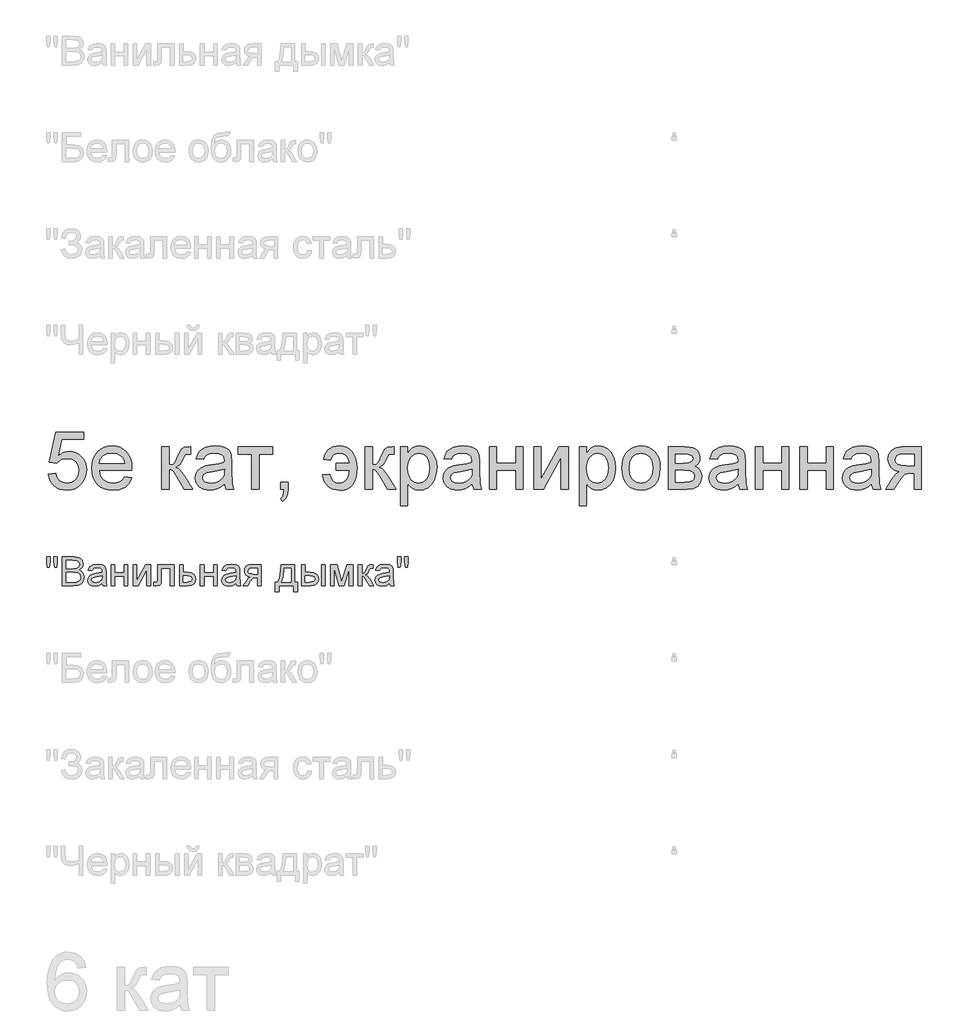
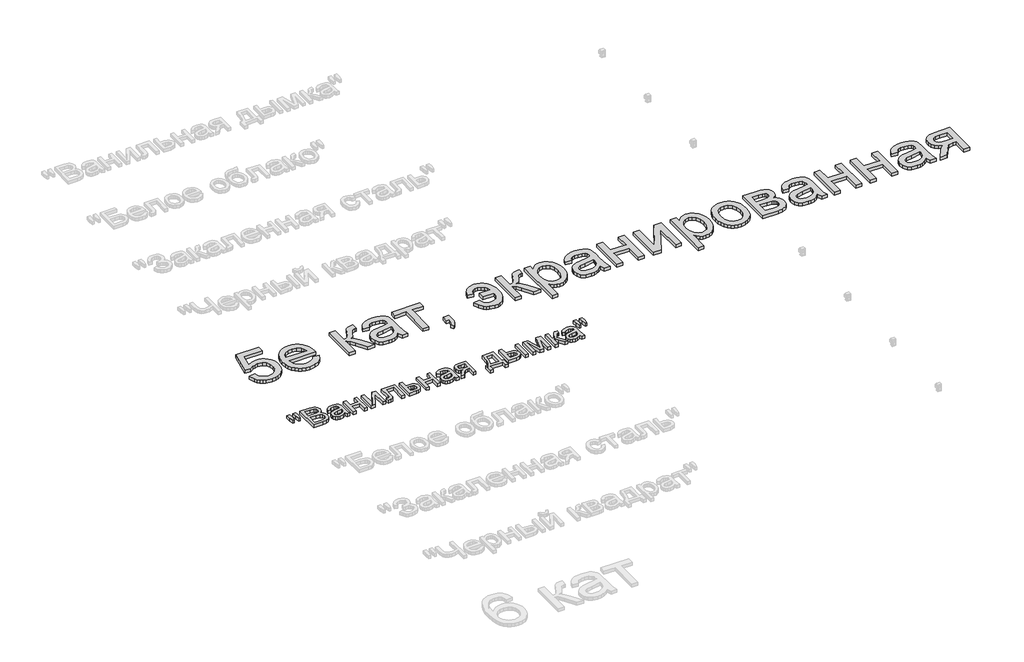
# One storey, part 75 of 168: 2 proxies.
"""IFC4 building model written with IfcOpenShell, lengths in millimetres."""

from ifc_helpers import new_model, si_unit, origin, origin_with_axes, place, context, project, spatial, polyline, outline, extrude, element, save

model = new_model("IFC4")

# Units and contexts
model_context = context("Model", 3, world=origin())
ifc_project = project(units=[si_unit("LENGTHUNIT", "METRE", prefix="MILLI")], contexts=[model_context])

# Site, building, storey
site = spatial("IfcSite", under=ifc_project)
building = spatial("IfcBuilding", under=site)
storey = spatial("IfcBuildingStorey", under=building, Name="Этаж 01", Elevation=0.0)

# Proxies
placement = place(None, origin())
element("IfcBuildingElementProxy", 1, Name="300 мм Arial 2", ObjectType="300 мм Arial 2", at=placement, inside=storey, context=model_context, shape_type="SweptSolid", body=[
    extrude(outline(polyline([(60184.967833, -34586.8111756), (60222.6389493, -34582.102286), (60229.5551309, -34604.7178317), (60241.6216603, -34620.9138365), (60258.7833554, -34630.6535124), (60280.9850338, -34633.900071), (60307.9875722, -34629.3843195), (60328.221082, -34615.837065), (60340.8578285, -34594.821806), (60345.0700773, -34567.902041), (60341.1245429, -34542.5549716), (60329.2879398, -34523.1675904), (60309.4682973, -34510.8619377), (60281.573645, -34506.7600534), (60263.2991069, -34508.3971283), (60248.5010536, -34513.3083529), (60227.3478389, -34530.3045011), (60189.6767226, -34525.5956116), (60222.6389493, -34370.2022568), (60368.614525, -34370.2022568), (60368.614525, -34407.8733731), (60253.0995785, -34407.8733731), (60236.9863472, -34490.8675512), (60263.8969151, -34474.5335907), (60292.09507, -34469.0889371), (60310.4408853, -34470.7765958), (60327.2921799, -34475.8395717), (60342.648954, -34484.277865), (60356.5112074, -34496.0914756), (60367.9868264, -34510.558435), (60376.1836971, -34526.956775), (60381.1018195, -34545.2864954), (60382.7411936, -34565.5475963), (60376.8366876, -34603.2187126), (60369.4560551, -34620.0125256), (60359.1231696, -34635.4451753), (60343.4697907, -34651.2503056), (60325.2044496, -34662.5396843), (60304.3271464, -34669.3133115), (60280.837881, -34671.5711873), (60243.8381493, -34665.7678488), (60228.1594785, -34658.5136757), (60214.3616045, -34648.3578334), (60202.8813869, -34635.8061596), (60194.1556859, -34621.364492), (60184.967833, -34586.8111756)])), origin_with_axes(), (0.0, 0.0, 1.0), 20.0),
    extrude(outline(polyline([(60580.0730959, -34600.9378442), (60617.0084482, -34605.6467337), (60603.700317, -34633.4770067), (60582.4643288, -34654.2807335), (60553.7787303, -34667.2485738), (60518.1217679, -34671.5711873), (60494.7474656, -34669.7064854), (60473.9207462, -34664.1123798), (60455.6416095, -34654.7888705), (60439.9100557, -34641.7359575), (60427.2595136, -34625.3169242), (60418.2234121, -34605.8950541), (60412.8017512, -34583.4703472), (60410.9945309, -34558.0428036), (60412.8201453, -34531.7530365), (60418.2969885, -34508.5810693), (60427.4250605, -34488.526902), (60440.2043613, -34471.5905347), (60455.8945284, -34458.1352507), (60473.7551993, -34448.5243336), (60493.7863739, -34442.7577833), (60515.9880523, -34440.8355999), (60537.4746601, -34442.7531848), (60556.9057272, -34448.5059395), (60574.2812537, -34458.093864), (60589.6012395, -34471.5169583), (60602.1069281, -34488.4165374), (60611.0395628, -34508.4339165), (60616.3991436, -34531.5690955), (60618.1856706, -34557.8220744), (60617.9649414, -34567.9756174), (60448.6656472, -34567.9756174), (60455.1863556, -34596.1737724), (60470.3338967, -34616.9039228), (60492.1952843, -34629.6510339), (60518.8575319, -34633.900071), (60538.9071006, -34631.9319023), (60555.7928842, -34626.0273963), (60569.5148826, -34615.8186709), (60580.0730959, -34600.9378442)]), holes=[polyline([(60448.6656472, -34530.3045011), (60580.5145543, -34530.3045011), (60575.4193886, -34510.4020852), (60565.4313925, -34496.165052), (60543.4688373, -34482.9213001), (60515.8408995, -34478.5067162), (60490.4478448, -34482.0291863), (60469.4509799, -34492.5965966), (60454.8552618, -34509.068513), (60448.6656472, -34530.3045011)])]), origin_with_axes(), (0.0, 0.0, 1.0), 20.0),
    extrude(outline(polyline([(60773.5790253, -34445.5444894), (60811.2501416, -34445.5444894), (60811.2501416, -34539.7222802), (60826.5724267, -34538.030023), (60836.4868465, -34532.9532515), (60845.2608321, -34519.7094997), (60857.1618146, -34493.5163016), (60874.3419038, -34459.4872171), (60889.498642, -34448.413969), (60917.0530034, -34445.5444894), (60924.2634906, -34445.5444894), (60924.2634906, -34483.4363349), (60914.1099475, -34483.2156057), (60895.7158477, -34487.1887313), (60882.7664015, -34511.9839778), (60867.5728751, -34538.8025752), (60846.2725076, -34551.9359624), (60858.2102783, -34557.2380617), (60870.0376845, -34566.5960599), (60893.361403, -34597.4797534), (60933.6812696, -34666.8622977), (60890.8598054, -34666.8622977), (60851.3492791, -34598.9512814), (60831.4836514, -34570.2196976), (60822.194631, -34565.0049703), (60811.2501416, -34563.2667279), (60811.2501416, -34666.8622977), (60773.5790253, -34666.8622977), (60773.5790253, -34445.5444894)])), origin_with_axes(), (0.0, 0.0, 1.0), 20.0),
    extrude(outline(polyline([(61098.4924035, -34638.6089605), (61080.4937769, -34654.0416102), (61061.9617213, -34664.139971), (61042.4731727, -34669.7133832), (61021.6050665, -34671.5711873), (60990.1235647, -34667.101421), (60966.9010138, -34653.6921223), (60952.5812071, -34633.3298539), (60947.8079382, -34608.0011785), (60949.61056, -34592.3845878), (60955.0184253, -34578.2027369), (60963.3601496, -34566.0626311), (60973.9643481, -34556.5712756), (61000.3414872, -34544.2104405), (61032.9358319, -34538.5450578), (61071.4530768, -34532.5853695), (61098.2716743, -34525.5956116), (61098.4924035, -34517.2079021), (61095.8988354, -34500.3956949), (61088.1181312, -34489.3960233), (61070.7173128, -34481.229043), (61046.4738893, -34478.5067162), (61024.0330876, -34480.318535), (61008.3613146, -34485.7539915), (60997.6743427, -34495.806367), (60990.1879441, -34511.468943), (60952.5168278, -34506.7600534), (60959.0559302, -34486.1586617), (60968.8140002, -34469.9718539), (60982.7015455, -34457.5926248), (61001.6290741, -34448.413969), (61024.7780487, -34442.7301922), (61051.3299317, -34440.8355999), (61076.7965628, -34442.509463), (61096.9840873, -34447.5310522), (61112.2052048, -34455.0818302), (61122.7726151, -34464.3432594), (61129.7807672, -34475.7935865), (61134.3241098, -34489.9110581), (61136.1635198, -34522.8732848), (61136.1635198, -34569.741451), (61138.0765061, -34635.1876579), (61145.5812988, -34666.8622977), (61107.9101825, -34666.8622977), (61098.4924035, -34638.6089605)]), holes=[polyline([(61098.4924035, -34563.2667279), (61037.7182979, -34574.8182225), (61005.3078941, -34580.9250637), (60990.6294025, -34590.8578775), (60985.4790545, -34605.3524281), (60988.2841548, -34616.5544349), (60996.6994554, -34625.7330907), (61010.5410155, -34631.8583259), (61029.624894, -34633.900071), (61049.8584037, -34631.6467937), (61067.7374687, -34624.8869621), (61082.2320193, -34614.9265571), (61092.3119859, -34603.0715598), (61096.7817522, -34590.8578775), (61098.2716743, -34573.9353058), (61098.4924035, -34563.2667279)])]), origin_with_axes(), (0.0, 0.0, 1.0), 20.0),
    extrude(outline(polyline([(61169.1257465, -34445.5444894), (61348.063549, -34445.5444894), (61348.063549, -34483.2156057), (61277.4302059, -34483.2156057), (61277.4302059, -34666.8622977), (61239.7590896, -34666.8622977), (61239.7590896, -34483.2156057), (61169.1257465, -34483.2156057), (61169.1257465, -34445.5444894)])), origin_with_axes(), (0.0, 0.0, 1.0), 20.0),
    extrude(outline(polyline([(61390.4435548, -34666.8622977), (61390.4435548, -34629.1911814), (61428.1146711, -34629.1911814), (61428.1146711, -34666.8622977), (61426.422414, -34688.4109856), (61421.3456424, -34705.3795426), (61412.5900509, -34718.3933682), (61399.8613339, -34728.0778617), (61390.4435548, -34713.9511931), (61398.6105351, -34707.1269821), (61404.2759179, -34697.6908089), (61409.2055366, -34666.8622977), (61390.4435548, -34666.8622977)])), origin_with_axes(), (0.0, 0.0, 1.0), 20.0),
    extrude(outline(polyline([(61677.6858167, -34530.3045011), (61748.3191597, -34530.3045011), (61742.5158213, -34509.4363949), (61731.2862234, -34492.8909022), (61715.36613, -34482.1027627), (61695.4913052, -34478.5067162), (61678.3480043, -34480.861161), (61664.9570996, -34487.9244953), (61655.3185914, -34499.6967191), (61649.4324794, -34516.1778325), (61611.7613631, -34511.468943), (61620.5445458, -34483.1880146), (61637.6234674, -34460.590863), (61662.1336053, -34445.7744157), (61693.2104369, -34440.8355999), (61713.5658075, -34442.7577833), (61731.6633024, -34448.5243336), (61747.5029216, -34458.1352507), (61761.084665, -34471.5905347), (61771.9808698, -34488.4119389), (61779.7638733, -34508.1212168), (61784.4336754, -34530.7183684), (61785.9902761, -34556.2033936), (61784.9992939, -34581.4125073), (61780.8491252, -34604.0648412), (61773.5397698, -34624.1603951), (61763.0712278, -34641.6991693), (61749.7837899, -34655.7614585), (61734.0177472, -34665.427558), (61715.7730995, -34670.6974675), (61695.0498468, -34671.5711873), (61661.6461617, -34666.0621544), (61647.5930695, -34659.1758633), (61635.3058108, -34649.5350558), (61616.8381347, -34624.0132423), (61607.0524736, -34591.5200651), (61644.7235899, -34586.8111756), (61650.6740812, -34607.4125673), (61660.9471859, -34622.1278471), (61675.5429041, -34630.957015), (61694.4612357, -34633.900071), (61715.7432091, -34629.7797926), (61731.76447, -34617.4189576), (61742.5985947, -34596.8175659), (61748.3191597, -34567.9756174), (61677.6858167, -34567.9756174), (61677.6858167, -34530.3045011)])), origin_with_axes(), (0.0, 0.0, 1.0), 20.0),
    extrude(outline(polyline([(61828.3702819, -34445.5444894), (61866.0413982, -34445.5444894), (61866.0413982, -34539.7222802), (61881.3636833, -34538.030023), (61891.2781031, -34532.9532515), (61900.0520887, -34519.7094997), (61911.9530712, -34493.5163016), (61929.1331604, -34459.4872171), (61944.2898986, -34448.413969), (61971.84426, -34445.5444894), (61979.0547471, -34445.5444894), (61979.0547471, -34483.4363349), (61968.9012041, -34483.2156057), (61950.5071043, -34487.1887313), (61937.5576581, -34511.9839778), (61922.3641317, -34538.8025752), (61901.0637641, -34551.9359624), (61913.0015349, -34557.2380617), (61924.828941, -34566.5960599), (61948.1526595, -34597.4797534), (61988.4725262, -34666.8622977), (61945.651062, -34666.8622977), (61906.1405357, -34598.9512814), (61886.2749079, -34570.2196976), (61876.9858876, -34565.0049703), (61866.0413982, -34563.2667279), (61866.0413982, -34666.8622977), (61828.3702819, -34666.8622977), (61828.3702819, -34445.5444894)])), origin_with_axes(), (0.0, 0.0, 1.0), 20.0),
    extrude(outline(polyline([(62012.0169739, -34751.6223094), (62012.0169739, -34445.5444894), (62049.6880902, -34445.5444894), (62049.6880902, -34482.4798418), (62061.9753488, -34464.2604859), (62075.7341355, -34451.2466604), (62091.7737904, -34443.438365), (62110.9036542, -34440.8355999), (62136.3794824, -34444.4776316), (62158.6547372, -34455.4037269), (62176.7913195, -34472.9516981), (62189.8511304, -34496.4593576), (62197.7421992, -34524.2160541), (62200.3725554, -34554.5111364), (62197.4019083, -34586.7284021), (62188.489967, -34615.5427594), (62173.92184, -34639.4918773), (62153.9826358, -34657.1134249), (62130.7600849, -34667.9567467), (62106.3419175, -34671.5711873), (62089.0238725, -34669.1523632), (62073.5636317, -34661.8958908), (62060.3290769, -34650.9422044), (62049.6880902, -34637.4317381), (62049.6880902, -34751.6223094), (62012.0169739, -34751.6223094)]), holes=[polyline([(62049.6880902, -34557.9692272), (62053.7623833, -34591.7407943), (62065.9852626, -34615.3588184), (62084.0206774, -34629.2647578), (62105.5325771, -34633.900071), (62127.3939646, -34629.0992109), (62145.8892319, -34614.6966308), (62158.4983873, -34590.214084), (62162.7014391, -34555.173324), (62158.5995549, -34521.5856978), (62146.2939021, -34497.63658), (62128.2860785, -34483.2891821), (62107.0776814, -34478.5067162), (62085.786511, -34483.5926848), (62067.0889086, -34498.8505905), (62054.0382948, -34523.8021869), (62049.6880902, -34557.9692272)])]), origin_with_axes(), (0.0, 0.0, 1.0), 20.0),
    extrude(outline(polyline([(62384.0192474, -34638.6089605), (62366.0206208, -34654.0416102), (62347.4885653, -34664.139971), (62328.0000166, -34669.7133832), (62307.1319104, -34671.5711873), (62275.6504087, -34667.101421), (62252.4278577, -34653.6921223), (62238.1080511, -34633.3298539), (62233.3347822, -34608.0011785), (62235.137404, -34592.3845878), (62240.5452693, -34578.2027369), (62248.8869935, -34566.0626311), (62259.491192, -34556.5712756), (62285.8683311, -34544.2104405), (62318.4626759, -34538.5450578), (62356.9799208, -34532.5853695), (62383.7985182, -34525.5956116), (62384.0192474, -34517.2079021), (62381.4256793, -34500.3956949), (62373.6449751, -34489.3960233), (62356.2441568, -34481.229043), (62332.0007333, -34478.5067162), (62309.5599316, -34480.318535), (62293.8881586, -34485.7539915), (62283.2011866, -34495.806367), (62275.714788, -34511.468943), (62238.0436717, -34506.7600534), (62244.5827742, -34486.1586617), (62254.3408441, -34469.9718539), (62268.2283894, -34457.5926248), (62287.1559181, -34448.413969), (62310.3048926, -34442.7301922), (62336.8567756, -34440.8355999), (62362.3234067, -34442.509463), (62382.5109312, -34447.5310522), (62397.7320488, -34455.0818302), (62408.2994591, -34464.3432594), (62415.3076111, -34475.7935865), (62419.8509537, -34489.9110581), (62421.6903637, -34522.8732848), (62421.6903637, -34569.741451), (62423.6033501, -34635.1876579), (62431.1081428, -34666.8622977), (62393.4370265, -34666.8622977), (62384.0192474, -34638.6089605)]), holes=[polyline([(62384.0192474, -34563.2667279), (62323.2451418, -34574.8182225), (62290.834738, -34580.9250637), (62276.1562464, -34590.8578775), (62271.0058985, -34605.3524281), (62273.8109987, -34616.5544349), (62282.2262993, -34625.7330907), (62296.0678594, -34631.8583259), (62315.1517379, -34633.900071), (62335.3852476, -34631.6467937), (62353.2643126, -34624.8869621), (62367.7588632, -34614.9265571), (62377.8388299, -34603.0715598), (62382.3085961, -34590.8578775), (62383.7985182, -34573.9353058), (62384.0192474, -34563.2667279)])]), origin_with_axes(), (0.0, 0.0, 1.0), 20.0),
    extrude(outline(polyline([(62473.4881486, -34445.5444894), (62511.1592649, -34445.5444894), (62511.1592649, -34530.3045011), (62610.0459452, -34530.3045011), (62610.0459452, -34445.5444894), (62647.7170616, -34445.5444894), (62647.7170616, -34666.8622977), (62610.0459452, -34666.8622977), (62610.0459452, -34567.9756174), (62511.1592649, -34567.9756174), (62511.1592649, -34666.8622977), (62473.4881486, -34666.8622977), (62473.4881486, -34445.5444894)])), origin_with_axes(), (0.0, 0.0, 1.0), 20.0),
    extrude(outline(polyline([(62704.223736, -34445.5444894), (62741.8948523, -34445.5444894), (62741.8948523, -34614.3287488), (62834.4539623, -34445.5444894), (62883.1615385, -34445.5444894), (62883.1615385, -34666.8622977), (62845.4904222, -34666.8622977), (62845.4904222, -34499.1081079), (62753.5199234, -34666.8622977), (62704.223736, -34666.8622977), (62704.223736, -34445.5444894)])), origin_with_axes(), (0.0, 0.0, 1.0), 20.0),
    extrude(outline(polyline([(62939.6682129, -34751.6223094), (62939.6682129, -34445.5444894), (62977.3393292, -34445.5444894), (62977.3393292, -34482.4798418), (62989.6265879, -34464.2604859), (63003.3853745, -34451.2466604), (63019.4250295, -34443.438365), (63038.5548932, -34440.8355999), (63064.0307214, -34444.4776316), (63086.3059762, -34455.4037269), (63104.4425586, -34472.9516981), (63117.5023694, -34496.4593576), (63125.3934382, -34524.2160541), (63128.0237945, -34554.5111364), (63125.0531473, -34586.7284021), (63116.141206, -34615.5427594), (63101.573079, -34639.4918773), (63081.6338749, -34657.1134249), (63058.4113239, -34667.9567467), (63033.9931565, -34671.5711873), (63016.6751116, -34669.1523632), (63001.2148707, -34661.8958908), (62987.9803159, -34650.9422044), (62977.3393292, -34637.4317381), (62977.3393292, -34751.6223094), (62939.6682129, -34751.6223094)]), holes=[polyline([(62977.3393292, -34557.9692272), (62981.4136223, -34591.7407943), (62993.6365016, -34615.3588184), (63011.6719164, -34629.2647578), (63033.1838161, -34633.900071), (63055.0452037, -34629.0992109), (63073.540471, -34614.6966308), (63086.1496264, -34590.214084), (63090.3526782, -34555.173324), (63086.2507939, -34521.5856978), (63073.9451412, -34497.63658), (63055.9373175, -34483.2891821), (63034.7289205, -34478.5067162), (63013.43775, -34483.5926848), (62994.7401476, -34498.8505905), (62981.6895338, -34523.8021869), (62977.3393292, -34557.9692272)])]), origin_with_axes(), (0.0, 0.0, 1.0), 20.0),
    extrude(outline(polyline([(63160.9860212, -34556.2033936), (63163.0231678, -34527.5407876), (63169.1346074, -34502.8421102), (63179.3203402, -34482.1073612), (63193.580366, -34465.3365408), (63207.9369609, -34454.6173791), (63223.7834778, -34446.9608351), (63241.1199168, -34442.3669087), (63259.9462779, -34440.8355999), (63280.7293114, -34442.7003018), (63299.5211836, -34448.2944073), (63316.3218944, -34457.6179167), (63331.131444, -34470.6708297), (63343.2186668, -34487.0116881), (63351.8523974, -34506.1990334), (63357.0326357, -34528.2328656), (63358.7593818, -34553.1131848), (63355.7059613, -34591.1705772), (63346.5456996, -34620.1412843), (63331.5453112, -34641.837125), (63310.9715107, -34658.069918), (63286.5349491, -34668.19587), (63259.9462779, -34671.5711873), (63238.8597418, -34669.7133832), (63219.8931257, -34664.139971), (63203.0464296, -34654.8509506), (63188.3196535, -34641.8463221), (63176.3611894, -34625.3468146), (63167.8194293, -34605.5731573), (63162.6943732, -34582.5253503), (63160.9860212, -34556.2033936)]), holes=[polyline([(63198.6571375, -34556.1298172), (63203.0165392, -34590.2232811), (63216.0947441, -34614.5126898), (63235.7764308, -34629.0532257), (63259.9462779, -34633.900071), (63284.0057604, -34629.0256345), (63303.650659, -34614.4023252), (63316.7288639, -34589.7910197), (63321.0882655, -34554.9525948), (63316.7012727, -34521.8524123), (63303.5402944, -34497.8940973), (63283.8678047, -34483.3535615), (63259.9462779, -34478.5067162), (63235.7764308, -34483.3351674), (63216.0947441, -34497.820521), (63203.0165392, -34522.0547474), (63198.6571375, -34556.1298172)])]), origin_with_axes(), (0.0, 0.0, 1.0), 20.0),
    extrude(outline(polyline([(63401.1393877, -34445.5444894), (63484.1335658, -34445.5444894), (63510.8142075, -34446.8044853), (63529.6405686, -34450.5844728), (63543.4913257, -34457.7213835), (63555.2451555, -34469.0521489), (63563.27418, -34483.813414), (63565.9505215, -34501.2418235), (63564.3318407, -34515.2857187), (63559.4757984, -34527.3982334), (63551.3640004, -34537.6345499), (63539.9780527, -34546.0498505), (63553.9207803, -34553.87654), (63565.2883339, -34566.4673013), (63572.8483089, -34582.828853), (63575.3683006, -34601.9679138), (63568.985548, -34630.6811035), (63553.8104157, -34650.8962191), (63529.7877214, -34662.8707781), (63496.8622828, -34666.8622977), (63401.1393877, -34666.8622977), (63401.1393877, -34445.5444894)]), holes=[polyline([(63438.810504, -34530.3045011), (63476.0401619, -34530.3045011), (63506.7583085, -34528.3915147), (63521.6943175, -34520.7395692), (63526.6331333, -34514.4119989), (63528.2794052, -34506.9072062), (63525.3915315, -34495.6684113), (63516.7279106, -34488.4395301), (63501.0745317, -34484.5215868), (63477.2173843, -34483.2156057), (63438.810504, -34483.2156057), (63438.810504, -34530.3045011)]), polyline([(63438.810504, -34629.1911814), (63485.0164826, -34629.1911814), (63510.1980051, -34627.4897272), (63525.9985368, -34622.3853645), (63534.4782168, -34613.1055412), (63537.6971843, -34598.877705), (63536.0877006, -34589.4507289), (63531.2592494, -34580.7411227), (63523.8464272, -34573.9261087), (63514.4838304, -34570.1829094), (63481.3376626, -34567.9756174), (63438.810504, -34567.9756174), (63438.810504, -34629.1911814)])]), origin_with_axes(), (0.0, 0.0, 1.0), 20.0),
    extrude(outline(polyline([(63763.7238821, -34638.6089605), (63745.7252555, -34654.0416102), (63727.1932, -34664.139971), (63707.7046513, -34669.7133832), (63686.8365451, -34671.5711873), (63655.3550434, -34667.101421), (63632.1324924, -34653.6921223), (63617.8126858, -34633.3298539), (63613.0394169, -34608.0011785), (63614.8420387, -34592.3845878), (63620.249904, -34578.2027369), (63628.5916282, -34566.0626311), (63639.1958268, -34556.5712756), (63665.5729658, -34544.2104405), (63698.1673106, -34538.5450578), (63736.6845555, -34532.5853695), (63763.5031529, -34525.5956116), (63763.7238821, -34517.2079021), (63761.1303141, -34500.3956949), (63753.3496099, -34489.3960233), (63735.9487915, -34481.229043), (63711.705368, -34478.5067162), (63689.2645663, -34480.318535), (63673.5927933, -34485.7539915), (63662.9058213, -34495.806367), (63655.4194227, -34511.468943), (63617.7483064, -34506.7600534), (63624.2874089, -34486.1586617), (63634.0454788, -34469.9718539), (63647.9330241, -34457.5926248), (63666.8605528, -34448.413969), (63690.0095273, -34442.7301922), (63716.5614103, -34440.8355999), (63742.0280415, -34442.509463), (63762.2155659, -34447.5310522), (63777.4366835, -34455.0818302), (63788.0040938, -34464.3432594), (63795.0122458, -34475.7935865), (63799.5555885, -34489.9110581), (63801.3949984, -34522.8732848), (63801.3949984, -34569.741451), (63803.3079848, -34635.1876579), (63810.8127775, -34666.8622977), (63773.1416612, -34666.8622977), (63763.7238821, -34638.6089605)]), holes=[polyline([(63763.7238821, -34563.2667279), (63702.9497765, -34574.8182225), (63670.5393727, -34580.9250637), (63655.8608811, -34590.8578775), (63650.7105332, -34605.3524281), (63653.5156334, -34616.5544349), (63661.9309341, -34625.7330907), (63675.7724941, -34631.8583259), (63694.8563726, -34633.900071), (63715.0898824, -34631.6467937), (63732.9689473, -34624.8869621), (63747.4634979, -34614.9265571), (63757.5434646, -34603.0715598), (63762.0132308, -34590.8578775), (63763.5031529, -34573.9353058), (63763.7238821, -34563.2667279)])]), origin_with_axes(), (0.0, 0.0, 1.0), 20.0),
    extrude(outline(polyline([(63853.1927833, -34445.5444894), (63890.8638997, -34445.5444894), (63890.8638997, -34530.3045011), (63989.75058, -34530.3045011), (63989.75058, -34445.5444894), (64027.4216963, -34445.5444894), (64027.4216963, -34666.8622977), (63989.75058, -34666.8622977), (63989.75058, -34567.9756174), (63890.8638997, -34567.9756174), (63890.8638997, -34666.8622977), (63853.1927833, -34666.8622977), (63853.1927833, -34445.5444894)])), origin_with_axes(), (0.0, 0.0, 1.0), 20.0),
    extrude(outline(polyline([(64083.9283707, -34445.5444894), (64121.599487, -34445.5444894), (64121.599487, -34530.3045011), (64220.4861673, -34530.3045011), (64220.4861673, -34445.5444894), (64258.1572836, -34445.5444894), (64258.1572836, -34666.8622977), (64220.4861673, -34666.8622977), (64220.4861673, -34567.9756174), (64121.599487, -34567.9756174), (64121.599487, -34666.8622977), (64083.9283707, -34666.8622977), (64083.9283707, -34445.5444894)])), origin_with_axes(), (0.0, 0.0, 1.0), 20.0),
    extrude(outline(polyline([(64455.9306442, -34638.6089605), (64437.9320176, -34654.0416102), (64419.3999621, -34664.139971), (64399.9114134, -34669.7133832), (64379.0433073, -34671.5711873), (64347.5618055, -34667.101421), (64324.3392546, -34653.6921223), (64310.0194479, -34633.3298539), (64305.246179, -34608.0011785), (64307.0488008, -34592.3845878), (64312.4566661, -34578.2027369), (64320.7983904, -34566.0626311), (64331.4025889, -34556.5712756), (64357.7797279, -34544.2104405), (64390.3740727, -34538.5450578), (64428.8913176, -34532.5853695), (64455.7099151, -34525.5956116), (64455.9306442, -34517.2079021), (64453.3370762, -34500.3956949), (64445.556372, -34489.3960233), (64428.1555536, -34481.229043), (64403.9121301, -34478.5067162), (64381.4713284, -34480.318535), (64365.7995554, -34485.7539915), (64355.1125835, -34495.806367), (64347.6261849, -34511.468943), (64309.9550686, -34506.7600534), (64316.494171, -34486.1586617), (64326.2522409, -34469.9718539), (64340.1397863, -34457.5926248), (64359.0673149, -34448.413969), (64382.2162895, -34442.7301922), (64408.7681725, -34440.8355999), (64434.2348036, -34442.509463), (64454.4223281, -34447.5310522), (64469.6434456, -34455.0818302), (64480.2108559, -34464.3432594), (64487.2190079, -34475.7935865), (64491.7623506, -34489.9110581), (64493.6017606, -34522.8732848), (64493.6017606, -34569.741451), (64495.5147469, -34635.1876579), (64503.0195396, -34666.8622977), (64465.3484233, -34666.8622977), (64455.9306442, -34638.6089605)]), holes=[polyline([(64455.9306442, -34563.2667279), (64395.1565386, -34574.8182225), (64362.7461349, -34580.9250637), (64348.0676433, -34590.8578775), (64342.9172953, -34605.3524281), (64345.7223955, -34616.5544349), (64354.1376962, -34625.7330907), (64367.9792563, -34631.8583259), (64387.0631348, -34633.900071), (64407.2966445, -34631.6467937), (64425.1757095, -34624.8869621), (64439.6702601, -34614.9265571), (64449.7502267, -34603.0715598), (64454.219993, -34590.8578775), (64455.7099151, -34573.9353058), (64455.9306442, -34563.2667279)])]), origin_with_axes(), (0.0, 0.0, 1.0), 20.0),
    extrude(outline(polyline([(64714.9195689, -34445.5444894), (64714.9195689, -34666.8622977), (64677.2484525, -34666.8622977), (64677.2484525, -34582.102286), (64656.7206372, -34582.102286), (64628.7616056, -34586.884752), (64617.596387, -34597.3142065), (64602.4948311, -34619.0376384), (64572.4756603, -34666.8622977), (64528.9184321, -34666.8622977), (64566.7367012, -34606.3824977), (64583.4385438, -34584.67746), (64598.8160112, -34575.0389517), (64573.0642715, -34567.1478829), (64554.9644773, -34552.1566916), (64544.2591113, -34532.2174875), (64540.6906559, -34509.4823802), (64545.5650924, -34483.6938523), (64560.1884017, -34463.2764016), (64584.0455491, -34449.9774675), (64616.6214997, -34445.5444894), (64714.9195689, -34445.5444894)]), holes=[polyline([(64677.2484525, -34483.2156057), (64627.5843832, -34483.2156057), (64601.9338111, -34485.3953066), (64587.3748811, -34491.934409), (64580.6150495, -34501.3981734), (64578.3617722, -34512.3518598), (64581.6819072, -34526.7084546), (64591.6423123, -34536.6688596), (64610.0456091, -34542.4905922), (64638.6944195, -34544.4311697), (64677.2484525, -34544.4311697), (64677.2484525, -34483.2156057)])]), origin_with_axes(), (0.0, 0.0, 1.0), 20.0),
])
element("IfcBuildingElementProxy", 2, Name="150", ObjectType="150", at=placement, inside=storey, context=model_context, shape_type="SweptSolid", body=[
    extrude(outline(polyline([(60180.1485789, -35070.3300622), (60175.550054, -35041.2305964), (60175.550054, -35016.1778325), (60194.3856121, -35016.1778325), (60194.3856121, -35041.2305964), (60190.2653338, -35070.3300622), (60180.1485789, -35070.3300622)])), origin_with_axes(), (0.0, 0.0, 1.0), 20.0),
    extrude(outline(polyline([(60217.7093306, -35070.3300622), (60213.2211703, -35041.2305964), (60213.2211703, -35016.1778325), (60232.0567284, -35016.1778325), (60232.0567284, -35041.2305964), (60227.6421445, -35070.3300622), (60217.7093306, -35070.3300622)])), origin_with_axes(), (0.0, 0.0, 1.0), 20.0),
    extrude(outline(polyline([(60257.9556209, -35166.8622977), (60257.9556209, -35016.1778325), (60315.4555767, -35016.1778325), (60343.6169435, -35020.6108106), (60353.0807078, -35026.2348066), (60360.2452096, -35034.2408385), (60366.2600803, -35053.517855), (60361.2017028, -35071.1210085), (60345.9162059, -35084.4567308), (60356.5893823, -35090.030143), (60364.4758526, -35098.509823), (60369.3456905, -35109.3347507), (60370.9689698, -35121.9439061), (60366.5359918, -35142.19581), (60355.5547142, -35156.6167842), (60339.1655713, -35164.2687297), (60315.0141183, -35166.8622977), (60257.9556209, -35166.8622977)]), holes=[polyline([(60276.791179, -35077.3933965), (60311.1881456, -35077.3933965), (60331.2745025, -35075.7747157), (60343.3594261, -35068.8033519), (60347.4245221, -35056.5344874), (60343.6353376, -35044.2472287), (60332.7828187, -35036.9815593), (60308.5761834, -35035.0133907), (60276.791179, -35035.0133907), (60276.791179, -35077.3933965)]), polyline([(60276.791179, -35148.0267396), (60315.4187885, -35148.0267396), (60329.3983043, -35147.2909756), (60341.2257105, -35143.1890913), (60349.061597, -35134.819776), (60352.1334117, -35122.1278471), (60348.5281681, -35107.4861437), (60336.8479148, -35098.7489463), (60313.5793786, -35096.2289547), (60276.791179, -35096.2289547), (60276.791179, -35148.0267396)])]), origin_with_axes(), (0.0, 0.0, 1.0), 20.0),
    extrude(outline(polyline([(60465.1467606, -35152.7356291), (60446.8814195, -35165.5011344), (60426.7030921, -35169.2167425), (60410.9623412, -35166.9818594), (60399.3510657, -35160.27721), (60392.1911624, -35150.0960758), (60389.804528, -35137.4317381), (60393.4097715, -35122.5325173), (60402.8827329, -35111.7167867), (60416.0713024, -35105.5363691), (60432.3684748, -35102.7036778), (60465.036396, -35096.2289547), (60465.1467606, -35092.0350999), (60463.8499765, -35083.6289963), (60459.9596244, -35078.1291605), (60451.2592153, -35074.0456704), (60439.1375035, -35072.684507), (60420.0812162, -35076.3081446), (60410.9945309, -35089.1656204), (60392.1589727, -35086.8111756), (60400.3075589, -35068.4170758), (60416.7150959, -35057.6381334), (60441.5655247, -35053.8489488), (60464.3926025, -35057.196675), (60477.2868664, -35065.6027786), (60483.0626137, -35078.3866779), (60483.9823187, -35094.8677913), (60483.9823187, -35118.3018744), (60484.9388119, -35151.0249778), (60488.6912083, -35166.8622977), (60469.8556501, -35166.8622977), (60465.1467606, -35152.7356291)]), holes=[polyline([(60465.1467606, -35115.0645128), (60434.7597078, -35120.8402601), (60418.5545059, -35123.8936807), (60411.2152601, -35128.8600876), (60408.6400861, -35136.1073629), (60414.2502865, -35146.2976942), (60430.7130058, -35150.3811843), (60449.7692932, -35145.8746299), (60462.0565518, -35134.9669288), (60465.036396, -35120.3988017), (60465.1467606, -35115.0645128)])]), origin_with_axes(), (0.0, 0.0, 1.0), 20.0),
    extrude(outline(polyline([(60509.8812112, -35056.2033936), (60528.7167693, -35056.2033936), (60528.7167693, -35098.5833994), (60578.1601095, -35098.5833994), (60578.1601095, -35056.2033936), (60596.9956676, -35056.2033936), (60596.9956676, -35166.8622977), (60578.1601095, -35166.8622977), (60578.1601095, -35117.4189576), (60528.7167693, -35117.4189576), (60528.7167693, -35166.8622977), (60509.8812112, -35166.8622977), (60509.8812112, -35056.2033936)])), origin_with_axes(), (0.0, 0.0, 1.0), 20.0),
    extrude(outline(polyline([(60625.2490049, -35056.2033936), (60644.084563, -35056.2033936), (60644.084563, -35140.5955233), (60690.364118, -35056.2033936), (60714.7179061, -35056.2033936), (60714.7179061, -35166.8622977), (60695.8823479, -35166.8622977), (60695.8823479, -35082.9852028), (60649.8970985, -35166.8622977), (60625.2490049, -35166.8622977), (60625.2490049, -35056.2033936)])), origin_with_axes(), (0.0, 0.0, 1.0), 20.0),
    extrude(outline(polyline([(60752.3890224, -35056.2033936), (60837.1490341, -35056.2033936), (60837.1490341, -35166.7519331), (60818.3134759, -35166.7519331), (60818.3134759, -35075.0389517), (60771.2245806, -35075.0389517), (60771.2245806, -35127.830018), (60769.9553877, -35152.1838061), (60762.9840239, -35162.4661079), (60746.5029105, -35166.8622977), (60731.1990195, -35165.9058045), (60731.1990195, -35148.0267396), (60739.6235172, -35148.0267396), (60748.1399854, -35146.8679113), (60751.5428938, -35143.1890913), (60752.3890224, -35126.7631603), (60752.3890224, -35056.2033936)])), origin_with_axes(), (0.0, 0.0, 1.0), 20.0),
    extrude(outline(polyline([(60865.4023713, -35056.2033936), (60884.2379295, -35056.2033936), (60884.2379295, -35096.2289547), (60905.9429672, -35096.2289547), (60924.7601312, -35098.587998), (60938.6844648, -35105.6651278), (60947.2929034, -35116.8901272), (60950.162383, -35131.692779), (60947.7205663, -35145.1710556), (60940.395116, -35156.5432078), (60927.6985887, -35164.2825252), (60909.1435405, -35166.8622977), (60865.4023713, -35166.8622977), (60865.4023713, -35056.2033936)]), holes=[polyline([(60884.2379295, -35148.0267396), (60901.8226888, -35148.0267396), (60924.539402, -35144.0720081), (60929.6299692, -35139.0090322), (60931.3268249, -35131.7295672), (60926.3052356, -35120.1412843), (60918.2348244, -35116.3337057), (60904.066769, -35115.0645128), (60884.2379295, -35115.0645128), (60884.2379295, -35148.0267396)])]), origin_with_axes(), (0.0, 0.0, 1.0), 20.0),
    extrude(outline(polyline([(60973.7068307, -35056.2033936), (60992.5423889, -35056.2033936), (60992.5423889, -35098.5833994), (61041.985729, -35098.5833994), (61041.985729, -35056.2033936), (61060.8212872, -35056.2033936), (61060.8212872, -35166.8622977), (61041.985729, -35166.8622977), (61041.985729, -35117.4189576), (60992.5423889, -35117.4189576), (60992.5423889, -35166.8622977), (60973.7068307, -35166.8622977), (60973.7068307, -35056.2033936)])), origin_with_axes(), (0.0, 0.0, 1.0), 20.0),
    extrude(outline(polyline([(61159.7079675, -35152.7356291), (61141.4426264, -35165.5011344), (61121.264299, -35169.2167425), (61105.5235481, -35166.9818594), (61093.9122726, -35160.27721), (61086.7523693, -35150.0960758), (61084.3657349, -35137.4317381), (61087.9709784, -35122.5325173), (61097.4439398, -35111.7167867), (61110.6325093, -35105.5363691), (61126.9296817, -35102.7036778), (61159.5976029, -35096.2289547), (61159.7079675, -35092.0350999), (61158.4111834, -35083.6289963), (61154.5208313, -35078.1291605), (61145.8204221, -35074.0456704), (61133.6987104, -35072.684507), (61114.6424231, -35076.3081446), (61105.5557378, -35089.1656204), (61086.7201796, -35086.8111756), (61094.8687658, -35068.4170758), (61111.2763028, -35057.6381334), (61136.1267316, -35053.8489488), (61158.9538094, -35057.196675), (61171.8480733, -35065.6027786), (61177.6238206, -35078.3866779), (61178.5435256, -35094.8677913), (61178.5435256, -35118.3018744), (61179.5000188, -35151.0249778), (61183.2524152, -35166.8622977), (61164.416857, -35166.8622977), (61159.7079675, -35152.7356291)]), holes=[polyline([(61159.7079675, -35115.0645128), (61129.3209147, -35120.8402601), (61113.1157128, -35123.8936807), (61105.776467, -35128.8600876), (61103.201293, -35136.1073629), (61108.8114934, -35146.2976942), (61125.2742127, -35150.3811843), (61144.3305001, -35145.8746299), (61156.6177587, -35134.9669288), (61159.5976029, -35120.3988017), (61159.7079675, -35115.0645128)])]), origin_with_axes(), (0.0, 0.0, 1.0), 20.0),
    extrude(outline(polyline([(61289.2024298, -35056.2033936), (61289.2024298, -35166.8622977), (61270.3668716, -35166.8622977), (61270.3668716, -35124.4822919), (61260.1029639, -35124.4822919), (61246.1234481, -35126.8735249), (61232.9900609, -35142.949968), (61217.9804755, -35166.8622977), (61196.2018614, -35166.8622977), (61215.1109959, -35136.6223977), (61223.4619172, -35125.7698789), (61231.1506509, -35120.9506247), (61218.2747811, -35117.0050903), (61209.224884, -35109.5094947), (61203.872201, -35099.5398926), (61202.0879733, -35088.172339), (61204.5251915, -35075.278075), (61211.8368462, -35065.0693497), (61223.7654199, -35058.4198826), (61240.0533952, -35056.2033936), (61289.2024298, -35056.2033936)]), holes=[polyline([(61270.3668716, -35075.0389517), (61245.5348369, -35075.0389517), (61232.7095509, -35076.1288021), (61225.4300859, -35079.3983534), (61220.9235315, -35089.6070787), (61222.583599, -35096.7853762), (61227.5638015, -35101.7655787), (61251.0898551, -35105.6467337), (61270.3668716, -35105.6467337), (61270.3668716, -35075.0389517)])]), origin_with_axes(), (0.0, 0.0, 1.0), 20.0),
    extrude(outline(polyline([(61392.7979996, -35056.2033936), (61463.4313427, -35056.2033936), (61463.4313427, -35148.0267396), (61477.5580113, -35148.0267396), (61477.5580113, -35197.4700797), (61458.7224531, -35197.4700797), (61458.7224531, -35166.8622977), (61381.0257758, -35166.8622977), (61381.0257758, -35197.4700797), (61362.1902176, -35197.4700797), (61362.1902176, -35148.0267396), (61373.9624415, -35148.0267396), (61382.5202964, -35132.5619002), (61388.5121744, -35112.1030628), (61392.7979996, -35056.2033936)]), holes=[polyline([(61409.279113, -35075.0389517), (61404.864529, -35117.9523865), (61395.1524444, -35148.0267396), (61444.5957845, -35148.0267396), (61444.5957845, -35075.0389517), (61409.279113, -35075.0389517)])]), origin_with_axes(), (0.0, 0.0, 1.0), 20.0),
    extrude(outline(polyline([(61602.3435841, -35056.2033936), (61621.1791422, -35056.2033936), (61621.1791422, -35166.8622977), (61602.3435841, -35166.8622977), (61602.3435841, -35056.2033936)])), origin_with_axes(), (0.0, 0.0, 1.0), 20.0),
    extrude(outline(polyline([(61498.7480142, -35056.2033936), (61517.5835724, -35056.2033936), (61517.5835724, -35096.2289547), (61540.8705027, -35096.2289547), (61560.9982463, -35098.587998), (61575.9112627, -35105.6651278), (61585.1405023, -35116.8901272), (61588.2169154, -35131.692779), (61585.637143, -35145.1710556), (61577.8978255, -35156.5432078), (61564.4931253, -35164.2825252), (61544.9172046, -35166.8622977), (61498.7480142, -35166.8622977), (61498.7480142, -35056.2033936)]), holes=[polyline([(61517.5835724, -35148.0267396), (61536.9341653, -35148.0267396), (61561.9133528, -35144.0720081), (61567.5143562, -35139.0090322), (61569.3813573, -35131.7295672), (61563.8447333, -35120.1412843), (61554.9649816, -35116.3337057), (61539.3989747, -35115.0645128), (61517.5835724, -35115.0645128), (61517.5835724, -35148.0267396)])]), origin_with_axes(), (0.0, 0.0, 1.0), 20.0),
    extrude(outline(polyline([(61649.4324794, -35056.2033936), (61681.8428832, -35056.2033936), (61706.8220707, -35144.789378), (61733.7510327, -35056.2033936), (61764.8002731, -35056.2033936), (61764.8002731, -35166.8622977), (61745.964715, -35166.8622977), (61745.964715, -35077.7612785), (61718.8886001, -35166.8622977), (61694.1669301, -35166.8622977), (61668.2680376, -35073.4938474), (61668.2680376, -35166.8622977), (61649.4324794, -35166.8622977), (61649.4324794, -35056.2033936)])), origin_with_axes(), (0.0, 0.0, 1.0), 20.0),
    extrude(outline(polyline([(61793.0536104, -35056.2033936), (61811.8891685, -35056.2033936), (61811.8891685, -35103.292289), (61824.5075209, -35099.9077746), (61834.845005, -35080.1892997), (61843.4350496, -35063.1747574), (61851.0134187, -35057.6381334), (61864.7905994, -35056.2033936), (61868.395843, -35056.2033936), (61868.395843, -35075.1493163), (61863.3190714, -35075.0389517), (61854.1220216, -35077.0255145), (61847.6472984, -35089.4231377), (61840.0505352, -35102.8324365), (61829.4003515, -35109.3991301), (61841.2829399, -35116.7291788), (61852.9447992, -35132.1710256), (61873.1047325, -35166.8622977), (61851.6940004, -35166.8622977), (61831.9387372, -35132.9067896), (61822.0059234, -35118.5409977), (61811.8891685, -35115.0645128), (61811.8891685, -35166.8622977), (61793.0536104, -35166.8622977), (61793.0536104, -35056.2033936)])), origin_with_axes(), (0.0, 0.0, 1.0), 20.0),
    extrude(outline(polyline([(61955.5102994, -35152.7356291), (61937.2449584, -35165.5011344), (61917.0666309, -35169.2167425), (61901.3258801, -35166.9818594), (61889.7146046, -35160.27721), (61882.5547013, -35150.0960758), (61880.1680668, -35137.4317381), (61883.7733104, -35122.5325173), (61893.2462717, -35111.7167867), (61906.4348413, -35105.5363691), (61922.7320137, -35102.7036778), (61955.3999348, -35096.2289547), (61955.5102994, -35092.0350999), (61954.2135154, -35083.6289963), (61950.3231633, -35078.1291605), (61941.6227541, -35074.0456704), (61929.5010424, -35072.684507), (61910.444755, -35076.3081446), (61901.3580697, -35089.1656204), (61882.5225116, -35086.8111756), (61890.6710978, -35068.4170758), (61907.0786348, -35057.6381334), (61931.9290635, -35053.8489488), (61954.7561413, -35057.196675), (61967.6504053, -35065.6027786), (61973.4261526, -35078.3866779), (61974.3458576, -35094.8677913), (61974.3458576, -35118.3018744), (61975.3023508, -35151.0249778), (61979.0547471, -35166.8622977), (61960.219189, -35166.8622977), (61955.5102994, -35152.7356291)]), holes=[polyline([(61955.5102994, -35115.0645128), (61925.1232466, -35120.8402601), (61908.9180447, -35123.8936807), (61901.5787989, -35128.8600876), (61899.003625, -35136.1073629), (61904.6138254, -35146.2976942), (61921.0765447, -35150.3811843), (61940.132832, -35145.8746299), (61952.4200907, -35134.9669288), (61955.3999348, -35120.3988017), (61955.5102994, -35115.0645128)])]), origin_with_axes(), (0.0, 0.0, 1.0), 20.0),
    extrude(outline(polyline([(62000.1343854, -35070.3300622), (61995.5358605, -35041.2305964), (61995.5358605, -35016.1778325), (62014.3714187, -35016.1778325), (62014.3714187, -35041.2305964), (62010.2511403, -35070.3300622), (62000.1343854, -35070.3300622)])), origin_with_axes(), (0.0, 0.0, 1.0), 20.0),
    extrude(outline(polyline([(62037.6951372, -35070.3300622), (62033.2069768, -35041.2305964), (62033.2069768, -35016.1778325), (62052.042535, -35016.1778325), (62052.042535, -35041.2305964), (62047.627951, -35070.3300622), (62037.6951372, -35070.3300622)])), origin_with_axes(), (0.0, 0.0, 1.0), 20.0),
])

save(model, "model.ifc")
